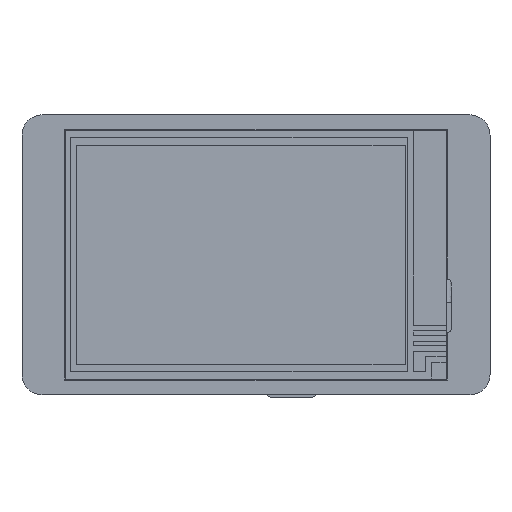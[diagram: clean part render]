
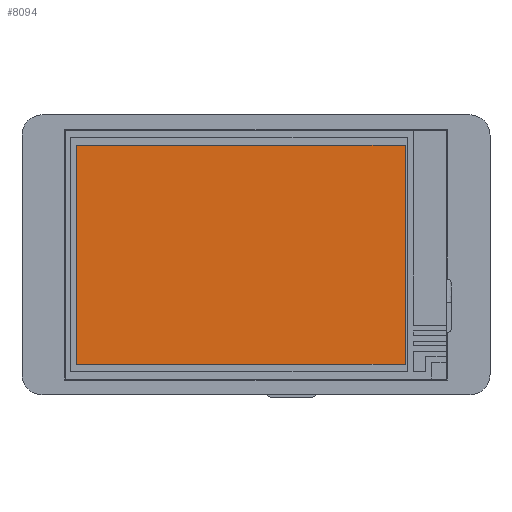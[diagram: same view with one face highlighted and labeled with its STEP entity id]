
A CAD part, top view. The second image highlights one B-rep face of the part: STEP entity #8094.
In plain terms, the highlighted planar face has unit normal (0, 0, 1).
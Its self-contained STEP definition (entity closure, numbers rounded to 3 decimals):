
#8055=DIRECTION('',(-1.,0.,0.));
#8056=VECTOR('',#8055,73.44);
#8057=CARTESIAN_POINT('',(33.29,-25.095,5.665));
#8058=LINE('',#8057,#8056);
#8059=DIRECTION('',(0.,1.,0.));
#8060=VECTOR('',#8059,48.96);
#8061=CARTESIAN_POINT('',(-40.15,-25.095,5.665));
#8062=LINE('',#8061,#8060);
#8063=DIRECTION('',(1.,0.,0.));
#8064=VECTOR('',#8063,73.44);
#8065=CARTESIAN_POINT('',(-40.15,23.865,5.665));
#8066=LINE('',#8065,#8064);
#8067=DIRECTION('',(0.,-1.,0.));
#8068=VECTOR('',#8067,48.96);
#8069=CARTESIAN_POINT('',(33.29,23.865,5.665));
#8070=LINE('',#8069,#8068);
#8071=CARTESIAN_POINT('',(-40.15,-25.095,5.665));
#8072=CARTESIAN_POINT('',(33.29,-25.095,5.665));
#8073=VERTEX_POINT('',#8071);
#8074=VERTEX_POINT('',#8072);
#8075=CARTESIAN_POINT('',(33.29,23.865,5.665));
#8076=VERTEX_POINT('',#8075);
#8077=CARTESIAN_POINT('',(-40.15,23.865,5.665));
#8078=VERTEX_POINT('',#8077);
#8079=CARTESIAN_POINT('',(40.757,-30.114,5.665));
#8080=DIRECTION('',(0.,0.,1.));
#8081=DIRECTION('',(1.,0.,0.));
#8082=AXIS2_PLACEMENT_3D('',#8079,#8080,#8081);
#8083=PLANE('',#8082);
#8085=ORIENTED_EDGE('',*,*,#8084,.T.);
#8087=ORIENTED_EDGE('',*,*,#8086,.T.);
#8089=ORIENTED_EDGE('',*,*,#8088,.T.);
#8091=ORIENTED_EDGE('',*,*,#8090,.T.);
#8092=EDGE_LOOP('',(#8085,#8087,#8089,#8091));
#8093=FACE_OUTER_BOUND('',#8092,.F.);
#8094=ADVANCED_FACE('',(#8093),#8083,.T.);
#8084=EDGE_CURVE('',#8074,#8073,#8058,.T.);
#8086=EDGE_CURVE('',#8073,#8078,#8062,.T.);
#8088=EDGE_CURVE('',#8078,#8076,#8066,.T.);
#8090=EDGE_CURVE('',#8076,#8074,#8070,.T.);
